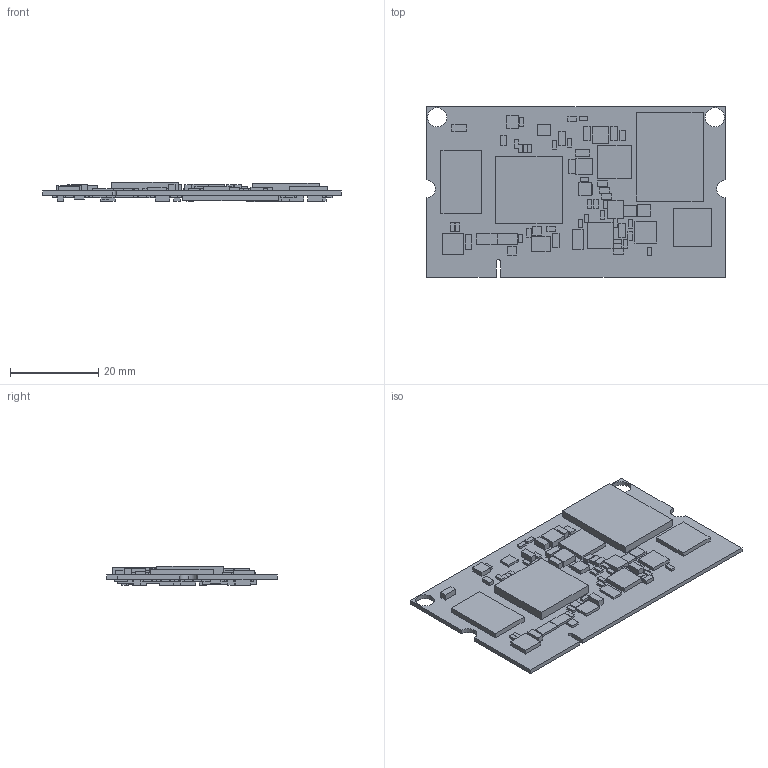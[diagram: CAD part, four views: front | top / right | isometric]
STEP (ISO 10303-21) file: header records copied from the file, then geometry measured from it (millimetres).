
FILE_DESCRIPTION (( 'STEP AP203' ), '1' );
FILE_NAME ('am33_rev1_3_FINAL_no_panel.STEP', '2014-03-02T11:56:54', ( 'LAB' ), ( '' ), 'SwSTEP 2.0', 'SolidWorks 2013', '' );
FILE_SCHEMA (( 'CONFIG_CONTROL_DESIGN' ));
Length unit declared in the file: millimetre
Products named in the file (1): am33_rev1_3_FINAL_no_panel
Bounding box: 67.6 x 38.56 x 4.46 mm (x, y, z)
Volume: 4749.2 mm3; surface area: 6921.6 mm2
Topology: 1 solids, 1 shells, 1094 faces, 2676 edges, 1784 vertices
Faces by surface type: plane 1086, cylinder 8
Entity records: 31561 total; most frequent: CARTESIAN_POINT 5555, ORIENTED_EDGE 5352, DIRECTION 4882, EDGE_CURVE 2676, VECTOR 2660, LINE 2660, VERTEX_POINT 1784, EDGE_LOOP 1298
